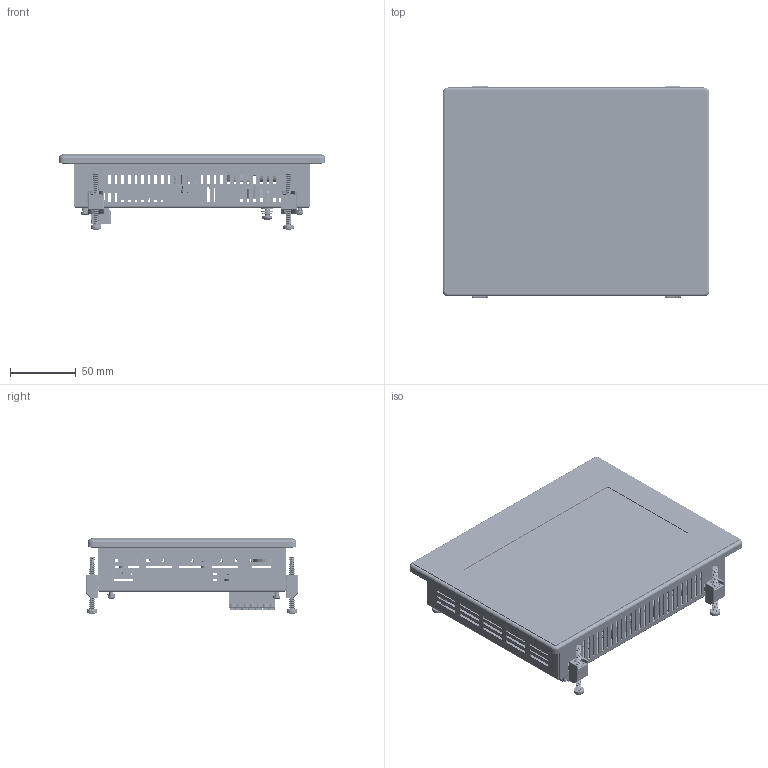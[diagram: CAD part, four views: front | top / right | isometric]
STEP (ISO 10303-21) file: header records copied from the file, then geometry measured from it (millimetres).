
FILE_DESCRIPTION(/* description */ (''),/* implementation_level */ '2;1');
FILE_NAME(/* name */ 'TC-WP770_20260617_resstp.stp',/* time_stamp */ '2026-06-17T12:16:31+02:00',/* author */ ('ut3'),/* organization */ (''),/* preprocessor_version */ 'ST-DEVELOPER v20.1',/* originating_system */ 'Autodesk Inventor 2026',/* authorisation */ '');
FILE_SCHEMA (('AUTOMOTIVE_DESIGN { 1 0 10303 214 3 1 1 }'));
Products named in the file (258): WP570_V2; 1300.20.628_V1; 1300.20.628_V1_1; FHL-M3-8; 1300.20.578_v1_Guarnizione; 1300.20.624_V2; 1300.20.624_V2_1; DiscoMasc-10; M4_FTTC_C; 0; 0_1; 0_2; 0_3; 0_4; 0_5; •WÜX2\20AC2022\X0\iƒ³6.
3 SIZE CODE D; •WÜX2\20AC\X0\SIZE CODE D-001; •WÜX2\20AC\X0\SIZE CODE D-002; •WÜX2\20AC\X0\SIZE CODE D-003; ASSEMBLY; Fillet1; Fillet2; body2; ASSEMBLY_1; Body; FilletPin1; FilletPin2; ASSEMBLY_2; Body_1; FilletPin1_1; FilletPin2_1; 0_6; 0_7; ASSEMBLY_3; Body_2; PinsArrayL; FilletPinR; ASSEMBLY_4; term1; term2 ...
Assembly tree (643 placements, depth 4):
  WP570_V2
    1300.20.628_V1
      1300.20.628_V1_1
      FHL-M3-8  x5
      1300.20.578_v1_Guarnizione
    1300.20.624_V2
      1300.20.624_V2_1
      DiscoMasc-10  x2
      M4_FTTC_C
    ISO 7045 - M3 x 10 - 4.8 - Z  x2
    1600.00.026  x2
    0
      0_1
        0_2
      0_3
      0_4
      0_5
      ASSEMBLY  x3
        Fillet1
        Fillet2
        body2
      ASSEMBLY_22  x9
        Fillet1_2
        Fillet2_2
        body2_2
      •WÜX2\20AC2022\X0\iƒ³6.
3 SIZE CODE D
        •WÜX2\20AC\X0\SIZE CODE D-001
        •WÜX2\20AC\X0\SIZE CODE D-003  x2
        •WÜX2\20AC\X0\SIZE CODE D-002
      ASSEMBLY_1  x2
        Body
        FilletPin1
        FilletPin2
      ASSEMBLY_2
        Body_1
        FilletPin1_1
        FilletPin2_1
      0_6
      0_7
      ASSEMBLY_3  x2
        Body_2
        PinsArrayL
        FilletPinR
      ASSEMBLY_4
        term1
        term2
        body_3
      ASSEMBLY_5
        term1_1
        term2_1
        body_4
      ASSEMBLY_6
        term1_2
        term2_2
        body_5
      ASSEMBLY_17  x8
        term1_13
        term2_13
        body_16
      ASSEMBLY_7
Bounding box: 202.3 x 160.5 x 57.14 mm (x, y, z)
Volume: 364676.9 mm3; surface area: 400905.2 mm2
Topology: 1327 solids, 1397 shells, 16172 faces, 39654 edges, 26053 vertices
Faces by surface type: plane 10029, cylinder 5371, bspline 369, cone 161, sphere 146, torus 96
Full cylindrical faces by diameter (mm): 0 x1, 0.156 x1, 0.163 x2, 0.2 x347, 0.254 x131, 0.3 x926, 0.345 x1, 0.406 x140, 0.457 x1, 0.5 x127, 0.508 x53, 0.6 x49, 0.65 x2, 0.66 x35, 0.7 x28, 0.75 x2, 0.762 x58, 0.8 x4, 0.85 x2, 0.875 x1, 0.889 x49, 1.016 x42, 1.1 x3, 1.118 x79, 1.2 x4, 1.321 x3, 1.397 x7, 1.4 x7, 1.416 x2, 1.6 x3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
Entity records: 435972 total; most frequent: CARTESIAN_POINT 118387, DIRECTION 63778, ORIENTED_EDGE 59192, EDGE_CURVE 29670, AXIS2_PLACEMENT_3D 21970, LINE 19838, VECTOR 19838, VERTEX_POINT 19620
